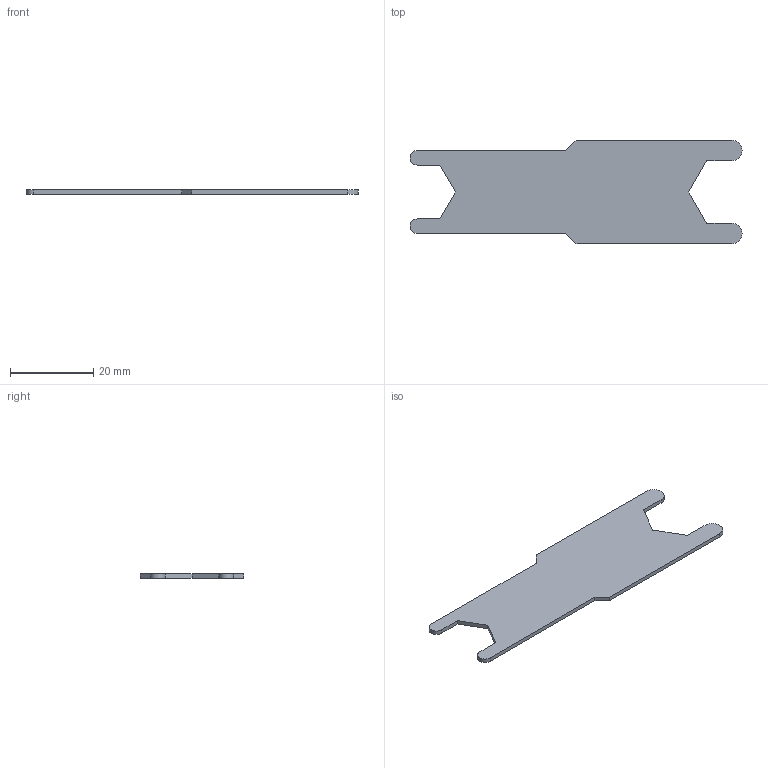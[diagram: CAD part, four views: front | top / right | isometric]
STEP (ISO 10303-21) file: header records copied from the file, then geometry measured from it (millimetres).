
FILE_DESCRIPTION( ( 'STEP AP203' ), '1' );
FILE_NAME( 'C:/Temp/Ganter_Step_05_03_2020/data/3_8/gn2424_1/Open-end wrench GN 2424.1-13-15.stp', '2020-03-12T15:40:40', ( 'License CC BY-ND 4.0' ), ( 'CADENAS' ), ' ', 'PARTsolutions', ' ' );
FILE_SCHEMA( ( 'CONFIG_CONTROL_DESIGN' ) );
Length unit declared in the file: millimetre
Products named in the file (1): _Open-end wrench GN 2424.1-13-15
Bounding box: 80 x 25 x 1 mm (x, y, z)
Volume: 1520.3 mm3; surface area: 3276.1 mm2
Topology: 1 solids, 1 shells, 20 faces, 54 edges, 36 vertices
Faces by surface type: plane 16, cylinder 4
Entity records: 670 total; most frequent: CARTESIAN_POINT 111, ORIENTED_EDGE 108, DIRECTION 104, EDGE_CURVE 54, LINE 46, VECTOR 46, VERTEX_POINT 36, AXIS2_PLACEMENT_3D 29
